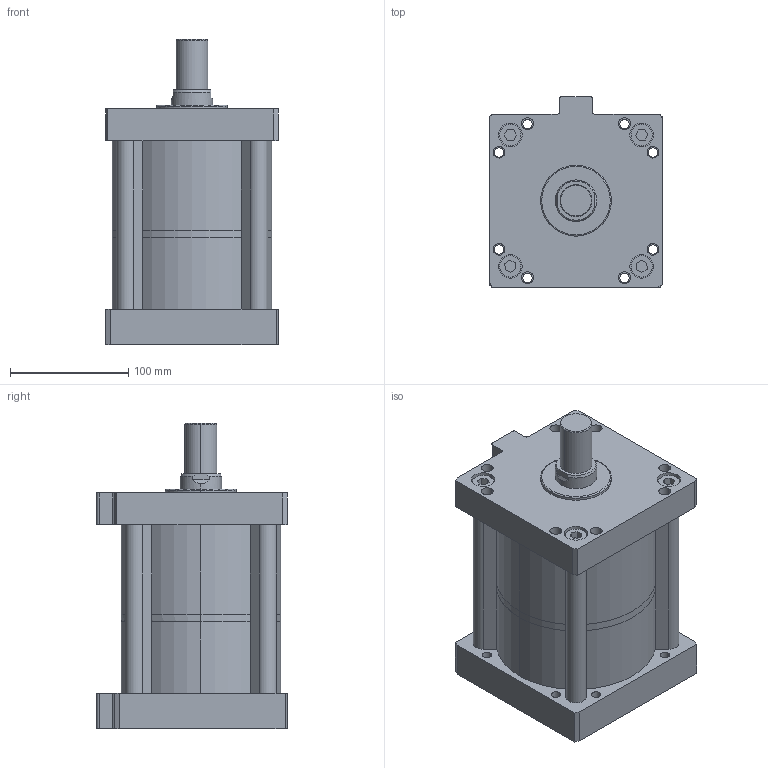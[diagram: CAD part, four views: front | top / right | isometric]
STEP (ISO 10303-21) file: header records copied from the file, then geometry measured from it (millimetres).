
FILE_DESCRIPTION (( 'STEP AP203' ), '1' );
FILE_NAME ('MHK-125-50-E-2.STEP', '2016-03-30T09:12:02', ( 'WIN' ), ( '' ), 'SwSTEP 2.0', 'SolidWorks 2014', '' );
FILE_SCHEMA (( 'CONFIG_CONTROL_DESIGN' ));
Length unit declared in the file: millimetre
Products named in the file (1): MHK-125-50-E-2
Bounding box: 146 x 161 x 258.5 mm (x, y, z)
Volume: 3355246.4 mm3; surface area: 305809.2 mm2
Topology: 2 solids, 6 shells, 280 faces, 673 edges, 444 vertices
Faces by surface type: plane 142, cylinder 124, cone 12, torus 2
Entity records: 8348 total; most frequent: DIRECTION 1491, CARTESIAN_POINT 1426, ORIENTED_EDGE 1338, EDGE_CURVE 669, AXIS2_PLACEMENT_3D 549, VERTEX_POINT 444, LINE 393, VECTOR 393
